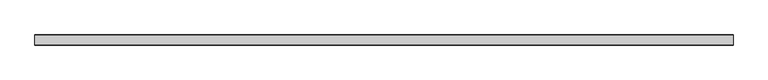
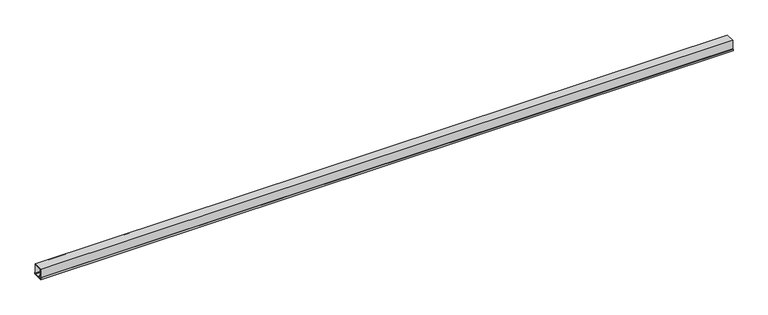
"""IFC4 building model written with IfcOpenShell, lengths in millimetres: light fixture geometry, 20207_レースウェイ : 45型×w40."""

from ifc_helpers import new_model, si_unit, frame, origin, place, context, project, spatial, polyline, outline, extrude, source, transform, mapped, element, save


def light_fixture_07ab4195(model_context):
    return source(origin(), model_context, "Body", "SweptSolid", [
        extrude(outline(polyline([(-21.7, 8.2), (-20.5, 8.2), (-20.5, 1.2), (20.5, 1.2), (20.5, 8.2), (21.7, 8.2), (21.7, 0.0), (-21.7, 0.0), (-21.7, 8.2)])), frame((-1489.1708286, 0.0, 0.0), z_axis=(1.0, 0.0, 0.0), x_axis=(0.0, 1.0, 0.0)), (0.0, 0.0, 1.0), 2978.3416571),
        extrude(outline(polyline([(-20.0, 46.2), (20.0, 46.2), (20.0, 1.2), (18.4, 1.2), (10.0, 11.2), (11.2251278, 12.2291073), (18.4, 3.6875928), (18.4, 44.6), (-18.4, 44.6), (-18.4, 3.6875928), (-11.2251278, 12.2291073), (-10.0, 11.2), (-18.4, 1.2), (-20.0, 1.2), (-20.0, 46.2)])), frame((-1489.1708286, 0.0, 0.0), z_axis=(1.0, 0.0, 0.0), x_axis=(0.0, 1.0, 0.0)), (0.0, 0.0, 1.0), 2978.3416571),
    ])


if __name__ == "__main__":
    model = new_model("IFC4")
    model_context = context("Model", 3, world=origin())
    ifc_project = project(units=[si_unit("LENGTHUNIT", "METRE", prefix="MILLI")], contexts=[model_context])
    site = spatial("IfcSite", under=ifc_project)
    building = spatial("IfcBuilding", under=site)
    placement = place(None, origin())
    light_fixture_shape = light_fixture_07ab4195(model_context)
    element("IfcLightFixture", 1, ObjectType="20207_レースウェイ : 45型×w40", at=placement, inside=building, context=model_context, shape_type="MappedRepresentation", body=[
        mapped(light_fixture_shape, transform((0.0, 0.0, 0.0), x_axis=(1.0, 0.0, 0.0), y_axis=(0.0, 1.0, 0.0), z_axis=(0.0, 0.0, 1.0))),
    ])
    save(model, "model.ifc")
